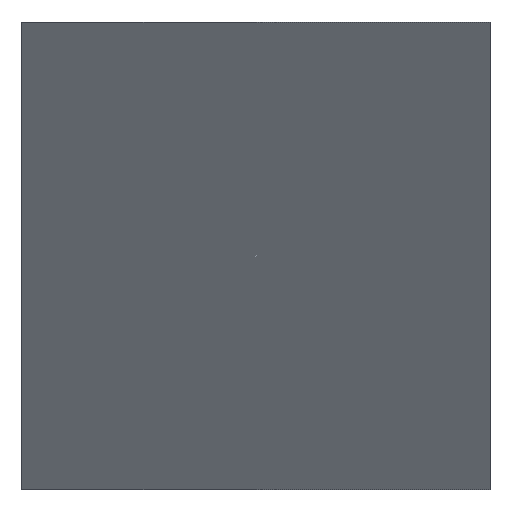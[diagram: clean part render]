
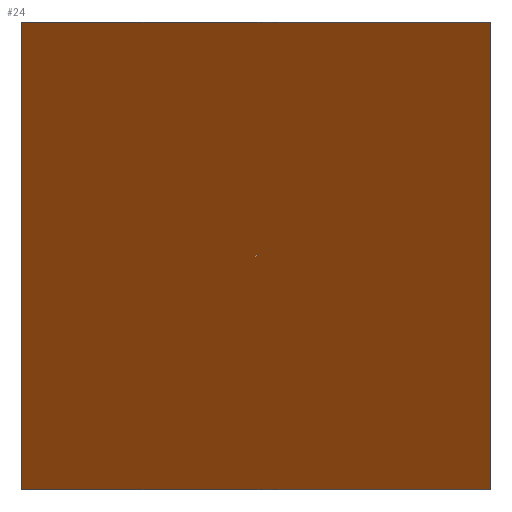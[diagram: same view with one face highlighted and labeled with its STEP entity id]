
A CAD part, front view. The second image highlights one B-rep face of the part: STEP entity #24.
In plain terms, the highlighted planar face has unit normal (-0.707, -0.707, 0).
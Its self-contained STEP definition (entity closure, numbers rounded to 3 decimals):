
#24=ADVANCED_FACE('',(#30),#182,.T.);
#30=FACE_OUTER_BOUND('',#36,.T.);
#36=EDGE_LOOP('',(#42,#43,#44,#45));
#42=ORIENTED_EDGE('',*,*,#126,.T.);
#43=ORIENTED_EDGE('',*,*,#127,.T.);
#44=ORIENTED_EDGE('',*,*,#128,.T.);
#45=ORIENTED_EDGE('',*,*,#129,.T.);
#66=PCURVE('',#182,#90);
#67=PCURVE('',#182,#91);
#68=PCURVE('',#182,#92);
#69=PCURVE('',#182,#93);
#75=PCURVE('',#184,#99);
#79=PCURVE('',#185,#103);
#83=PCURVE('',#186,#107);
#87=PCURVE('',#187,#111);
#90=DEFINITIONAL_REPRESENTATION('',(#139),#319);
#91=DEFINITIONAL_REPRESENTATION('',(#141),#319);
#92=DEFINITIONAL_REPRESENTATION('',(#143),#319);
#93=DEFINITIONAL_REPRESENTATION('',(#145),#319);
#99=DEFINITIONAL_REPRESENTATION('',(#156),#319);
#103=DEFINITIONAL_REPRESENTATION('',(#161),#319);
#107=DEFINITIONAL_REPRESENTATION('',(#166),#319);
#111=DEFINITIONAL_REPRESENTATION('',(#171),#319);
#114=SURFACE_CURVE('',#138,(#66,#87),.PCURVE_S1.);
#115=SURFACE_CURVE('',#140,(#67,#83),.PCURVE_S1.);
#116=SURFACE_CURVE('',#142,(#68,#79),.PCURVE_S1.);
#117=SURFACE_CURVE('',#144,(#69,#75),.PCURVE_S1.);
#126=EDGE_CURVE('',#176,#175,#114,.T.);
#127=EDGE_CURVE('',#175,#174,#115,.T.);
#128=EDGE_CURVE('',#174,#177,#116,.T.);
#129=EDGE_CURVE('',#177,#176,#117,.T.);
#138=B_SPLINE_CURVE_WITH_KNOTS('',1,(#240,#241),.UNSPECIFIED.,.F.,.F.,(2,
2),(14.142,42.426),.UNSPECIFIED.);
#139=B_SPLINE_CURVE_WITH_KNOTS('',1,(#242,#243),.UNSPECIFIED.,.F.,.F.,(2,
2),(14.142,42.426),.UNSPECIFIED.);
#140=B_SPLINE_CURVE_WITH_KNOTS('',1,(#244,#245),.UNSPECIFIED.,.F.,.F.,(2,
2),(20.,40.),.UNSPECIFIED.);
#141=B_SPLINE_CURVE_WITH_KNOTS('',1,(#246,#247),.UNSPECIFIED.,.F.,.F.,(2,
2),(20.,40.),.UNSPECIFIED.);
#142=B_SPLINE_CURVE_WITH_KNOTS('',1,(#248,#249),.UNSPECIFIED.,.F.,.F.,(2,
2),(-42.426,-14.142),.UNSPECIFIED.);
#143=B_SPLINE_CURVE_WITH_KNOTS('',1,(#250,#251),.UNSPECIFIED.,.F.,.F.,(2,
2),(-42.426,-14.142),.UNSPECIFIED.);
#144=B_SPLINE_CURVE_WITH_KNOTS('',1,(#252,#253),.UNSPECIFIED.,.F.,.F.,(2,
2),(-40.,-20.),.UNSPECIFIED.);
#145=B_SPLINE_CURVE_WITH_KNOTS('',1,(#254,#255),.UNSPECIFIED.,.F.,.F.,(2,
2),(-40.,-20.),.UNSPECIFIED.);
#156=B_SPLINE_CURVE_WITH_KNOTS('',1,(#276,#277),.UNSPECIFIED.,.F.,.F.,(2,
2),(-40.,-20.),.UNSPECIFIED.);
#161=B_SPLINE_CURVE_WITH_KNOTS('',3,(#286,#287,#288,#289),.UNSPECIFIED.,
 .F.,.F.,(4,4),(-42.426,-14.142),.UNSPECIFIED.);
#166=B_SPLINE_CURVE_WITH_KNOTS('',1,(#298,#299),.UNSPECIFIED.,.F.,.F.,(2,
2),(20.,40.),.UNSPECIFIED.);
#171=B_SPLINE_CURVE_WITH_KNOTS('',3,(#308,#309,#310,#311),.UNSPECIFIED.,
 .F.,.F.,(4,4),(14.142,42.426),.UNSPECIFIED.);
#174=VERTEX_POINT('',#232);
#175=VERTEX_POINT('',#233);
#176=VERTEX_POINT('',#234);
#177=VERTEX_POINT('',#235);
#182=PLANE('',#208);
#184=PLANE('',#210);
#185=PLANE('',#211);
#186=PLANE('',#212);
#187=PLANE('',#213);
#208=AXIS2_PLACEMENT_3D('',#226,#217,$);
#210=AXIS2_PLACEMENT_3D('',#228,#219,$);
#211=AXIS2_PLACEMENT_3D('',#229,#220,$);
#212=AXIS2_PLACEMENT_3D('',#230,#221,$);
#213=AXIS2_PLACEMENT_3D('',#231,#222,$);
#217=DIRECTION('',(-0.707,-0.707,0.));
#219=DIRECTION('',(-1.,0.,0.));
#220=DIRECTION('',(0.,0.,1.));
#221=DIRECTION('',(1.,0.,0.));
#222=DIRECTION('',(0.,0.,-1.));
#226=CARTESIAN_POINT('',(-725.,-52.,3.));
#228=CARTESIAN_POINT('',(-755.,-42.,23.));
#229=CARTESIAN_POINT('',(-755.,-42.,43.));
#230=CARTESIAN_POINT('',(-735.,-42.,43.));
#231=CARTESIAN_POINT('',(-735.,-42.,23.));
#232=CARTESIAN_POINT('',(-735.,-42.,43.));
#233=CARTESIAN_POINT('',(-735.,-42.,23.));
#234=CARTESIAN_POINT('',(-755.,-22.,23.));
#235=CARTESIAN_POINT('',(-755.,-22.,43.));
#240=CARTESIAN_POINT('',(-755.,-22.,23.));
#241=CARTESIAN_POINT('',(-735.,-42.,23.));
#242=CARTESIAN_POINT('',(20.,-14.142));
#243=CARTESIAN_POINT('',(20.,-42.426));
#244=CARTESIAN_POINT('',(-735.,-42.,23.));
#245=CARTESIAN_POINT('',(-735.,-42.,43.));
#246=CARTESIAN_POINT('',(20.,-42.426));
#247=CARTESIAN_POINT('',(40.,-42.426));
#248=CARTESIAN_POINT('',(-735.,-42.,43.));
#249=CARTESIAN_POINT('',(-755.,-22.,43.));
#250=CARTESIAN_POINT('',(40.,-42.426));
#251=CARTESIAN_POINT('',(40.,-14.142));
#252=CARTESIAN_POINT('',(-755.,-22.,43.));
#253=CARTESIAN_POINT('',(-755.,-22.,23.));
#254=CARTESIAN_POINT('',(40.,-14.142));
#255=CARTESIAN_POINT('',(20.,-14.142));
#276=CARTESIAN_POINT('',(-60.,26.667));
#277=CARTESIAN_POINT('',(-80.,26.667));
#286=CARTESIAN_POINT('',(-40.,0.));
#287=CARTESIAN_POINT('',(-46.667,8.889));
#288=CARTESIAN_POINT('',(-53.333,17.778));
#289=CARTESIAN_POINT('',(-60.,26.667));
#298=CARTESIAN_POINT('',(-20.,0.));
#299=CARTESIAN_POINT('',(-40.,0.));
#308=CARTESIAN_POINT('',(0.,26.667));
#309=CARTESIAN_POINT('',(-6.667,17.778));
#310=CARTESIAN_POINT('',(-13.333,8.889));
#311=CARTESIAN_POINT('',(-20.,0.));
#319=(
GEOMETRIC_REPRESENTATION_CONTEXT(2)
PARAMETRIC_REPRESENTATION_CONTEXT()
REPRESENTATION_CONTEXT('pspace','')
);
